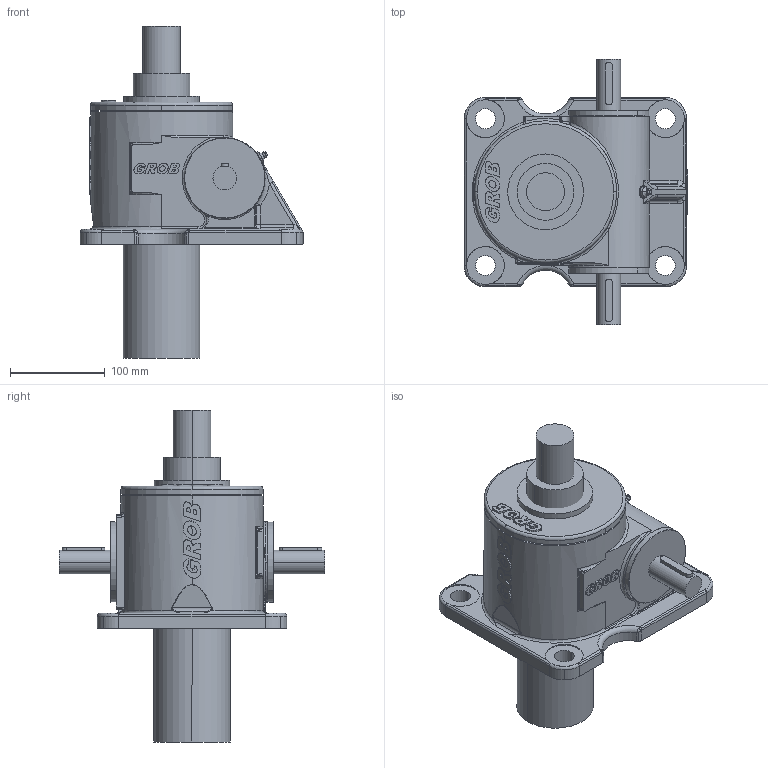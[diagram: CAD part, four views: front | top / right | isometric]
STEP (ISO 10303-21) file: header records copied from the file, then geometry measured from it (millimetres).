
FILE_DESCRIPTION(('STEP AP203'),'1');
FILE_NAME('mc15-gn-f-1f-ge-0100-0000-tr60x12-ab-mg0-o_ohne.stp','2023-12-18T13:32:38',('TraceParts'),('TraceParts S.A.'),'Spatial InterOp 3D',' ',' ');
FILE_SCHEMA(('CONFIG_CONTROL_DESIGN'));
Length unit declared in the file: millimetre
Products named in the file (1): 1
Bounding box: 236.3 x 280 x 350.5 mm (x, y, z)
Volume: 5409220.9 mm3; surface area: 317280.9 mm2
Topology: 3 solids, 3 shells, 696 faces, 1852 edges, 1174 vertices
Faces by surface type: cylinder 386, plane 192, bspline 74, cone 26, torus 16, sphere 2
Entity records: 24968 total; most frequent: CARTESIAN_POINT 7720, DIRECTION 3669, ORIENTED_EDGE 3650, EDGE_CURVE 1825, AXIS2_PLACEMENT_3D 1445, VERTEX_POINT 1174, CIRCLE 796, LINE 779
